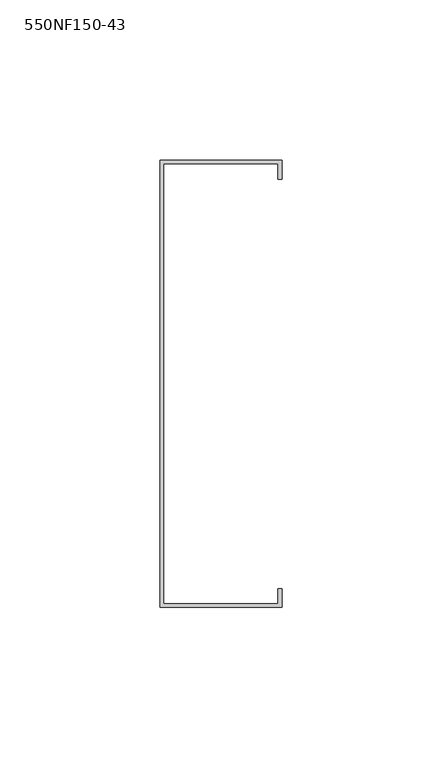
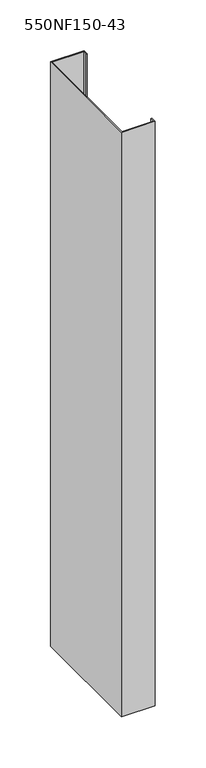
"""IFC4 building model written with IfcOpenShell, lengths in millimetres: column geometry, BIMSF-SSMA-S-Column : 550NF150-43."""

from ifc_helpers import new_model, si_unit, frame, origin, place, context, project, spatial, polyline, outline, extrude, source, transform, mapped, element, save


def column_550nf150_43_e552a574(model_context):
    return source(origin(), model_context, "Body", "SweptSolid", [
        extrude(outline(polyline([(-11.9977877, -80.5871249), (-11.9977877, 59.1128751), (26.1022123, 59.1128751), (26.1022123, 53.1879908), (24.952528, 53.1879908), (24.952528, 57.9631908), (-10.8481035, 57.9631908), (-10.8481035, -79.4374407), (24.952528, -79.4374407), (24.952528, -74.6622407), (26.1022123, -74.6622407), (26.1022123, -80.5871249), (-11.9977877, -80.5871249)])), frame((0.0, 0.0, 5525.3929688), z_axis=(0.0, 0.0, 1.0), x_axis=(1.0, 0.0, 0.0)), (0.0, 0.0, 1.0), 701.4427909),
    ])


if __name__ == "__main__":
    model = new_model("IFC4")
    model_context = context("Model", 3, world=origin())
    ifc_project = project(units=[si_unit("LENGTHUNIT", "METRE", prefix="MILLI")], contexts=[model_context])
    site = spatial("IfcSite", under=ifc_project)
    building = spatial("IfcBuilding", under=site)
    placement = place(None, origin())
    column_550nf150_43_shape = column_550nf150_43_e552a574(model_context)
    element("IfcColumn", 1, ObjectType="BIMSF-SSMA-S-Column : 550NF150-43", at=placement, inside=building, context=model_context, shape_type="MappedRepresentation", body=[
        mapped(column_550nf150_43_shape, transform((0.0, 0.0, 0.0), x_axis=(1.0, 0.0, 0.0), y_axis=(0.0, 1.0, 0.0), z_axis=(0.0, 0.0, 1.0))),
    ])
    save(model, "model.ifc")
